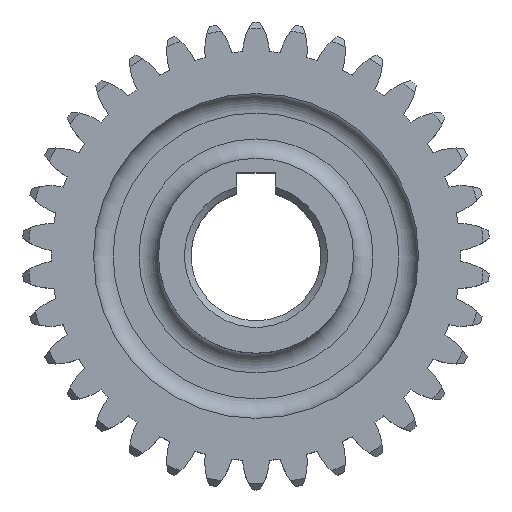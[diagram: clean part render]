
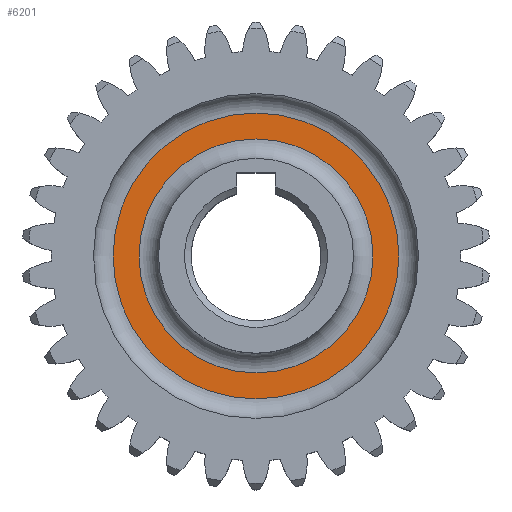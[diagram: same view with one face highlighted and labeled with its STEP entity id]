
A CAD part, top view. The second image highlights one B-rep face of the part: STEP entity #6201.
In plain terms, the highlighted planar face has unit normal (0, 0, 1).
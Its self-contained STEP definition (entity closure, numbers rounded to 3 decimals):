
#479=FACE_BOUND($,#1342,.T.);
#961=PLANE($,#6749);
#978=FACE_OUTER_BOUND($,#1341,.T.);
#1341=EDGE_LOOP($,(#4224));
#1342=EDGE_LOOP($,(#4225));
#1874=CIRCLE($,#6747,18.);
#1876=CIRCLE($,#6750,22.);
#2461=VERTEX_POINT($,#9994);
#2463=VERTEX_POINT($,#9999);
#3162=EDGE_CURVE($,#2461,#2461,#1874,.T.);
#3164=EDGE_CURVE($,#2463,#2463,#1876,.T.);
#4224=ORIENTED_EDGE($,*,*,#3164,.F.);
#4225=ORIENTED_EDGE($,*,*,#3162,.F.);
#6201=ADVANCED_FACE($,(#978,#479),#961,.T.);
#6747=AXIS2_PLACEMENT_3D($,#9995,#7892,#7893);
#6749=AXIS2_PLACEMENT_3D($,#9998,#7896,#7897);
#6750=AXIS2_PLACEMENT_3D($,#10000,#7898,#7899);
#7892=DIRECTION('center_axis',(0.,0.,1.));
#7893=DIRECTION('ref_axis',(-1.,0.,0.));
#7896=DIRECTION('center_axis',(0.,0.,1.));
#7897=DIRECTION('ref_axis',(1.,0.,0.));
#7898=DIRECTION('center_axis',(0.,0.,-1.));
#7899=DIRECTION('ref_axis',(-1.,0.,0.));
#9994=CARTESIAN_POINT('',(18.,0.,2.));
#9995=CARTESIAN_POINT('Origin',(0.,0.,2.));
#9998=CARTESIAN_POINT('Origin',(0.,0.,
2.));
#9999=CARTESIAN_POINT('',(22.,0.,2.));
#10000=CARTESIAN_POINT('Origin',(0.,0.,2.));
